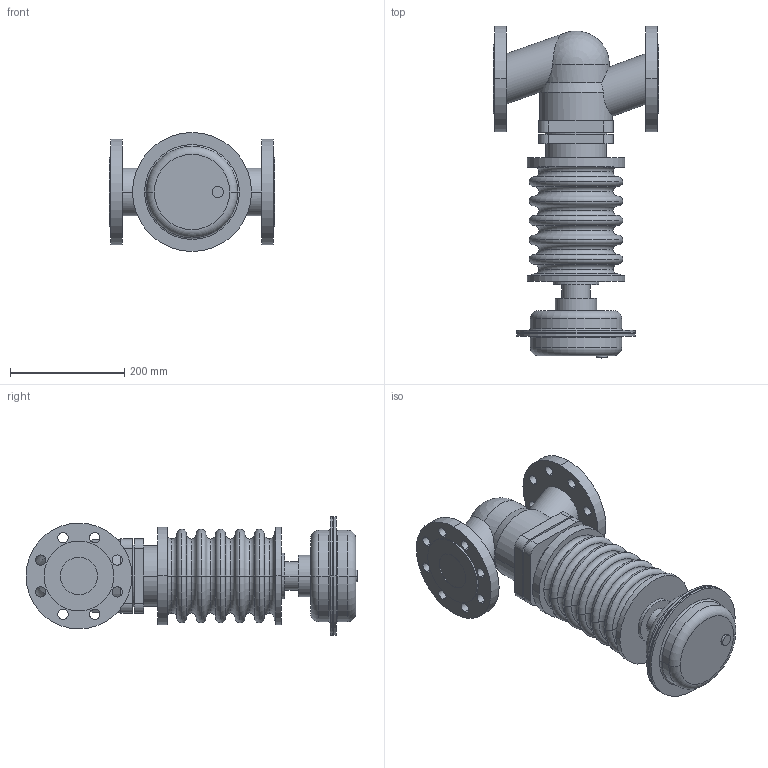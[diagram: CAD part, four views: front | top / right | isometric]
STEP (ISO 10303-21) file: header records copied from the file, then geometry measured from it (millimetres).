
FILE_DESCRIPTION(('OneSpaceDesigner STEP Export'),'2;1');
FILE_NAME('c000000572.stp','2006-08-30T 9:46:28',(''),(''),'OneSpace Designer STEP processor for AP203 (Solid Model)','OneSpace Designer 13.20A 18-Aug-2005 (C) CoCreate Software GmbH','');
FILE_SCHEMA(('CONFIG_CONTROL_DESIGN'));
Length unit declared in the file: millimetre
Products named in the file (1): 2
Bounding box: 290 x 580.5 x 208 mm (x, y, z)
Volume: 9878996.2 mm3; surface area: 579514.1 mm2
Topology: 1 solids, 1 shells, 192 faces, 454 edges, 287 vertices
Faces by surface type: cylinder 86, torus 54, plane 48, cone 2, sphere 2
Entity records: 5058 total; most frequent: CARTESIAN_POINT 1022, ORIENTED_EDGE 904, DIRECTION 730, EDGE_CURVE 452, AXIS2_PLACEMENT_3D 293, VERTEX_POINT 287, EDGE_LOOP 249, FACE_OUTER_BOUND 192
